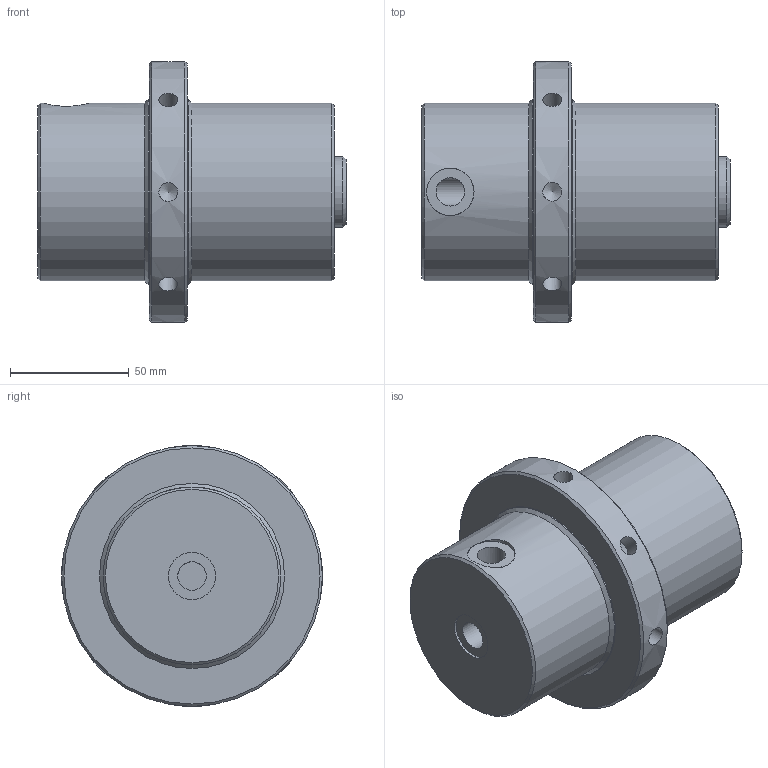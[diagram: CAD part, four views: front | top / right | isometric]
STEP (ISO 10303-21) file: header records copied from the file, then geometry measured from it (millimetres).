
FILE_DESCRIPTION( ( 'Unknown' ), '1' );
FILE_NAME( 'F:/JAKOB-STEP+IGES-Dateien/STEP-Dateien/ZSF/ZSF 4000 - 2.stp', 'Unknown', ( 'Unknown' ), ( 'Unknown' ), 'XStep 1.0', 'Unknown', ' ' );
FILE_SCHEMA( ( 'CONFIG_CONTROL_DESIGN' ) );
Length unit declared in the file: millimetre
Products named in the file (1): 1
Bounding box: 130 x 110 x 110 mm (x, y, z)
Volume: 611740.2 mm3; surface area: 56129 mm2
Topology: 1 solids, 1 shells, 44 faces, 109 edges, 70 vertices
Faces by surface type: cylinder 19, cone 17, plane 8
Full cylindrical faces by diameter (mm): 8 x8, 12 x2, 20 x2, 20.5 x1, 30 x1, 75 x2, 78 x2, 110 x1
Entity records: 1562 total; most frequent: CARTESIAN_POINT 755, DIRECTION 162, ORIENTED_EDGE 90, EDGE_LOOP 88, AXIS2_PLACEMENT_3D 81, FACE_OUTER_BOUND 63, VERTEX_POINT 54, EDGE_CURVE 45
